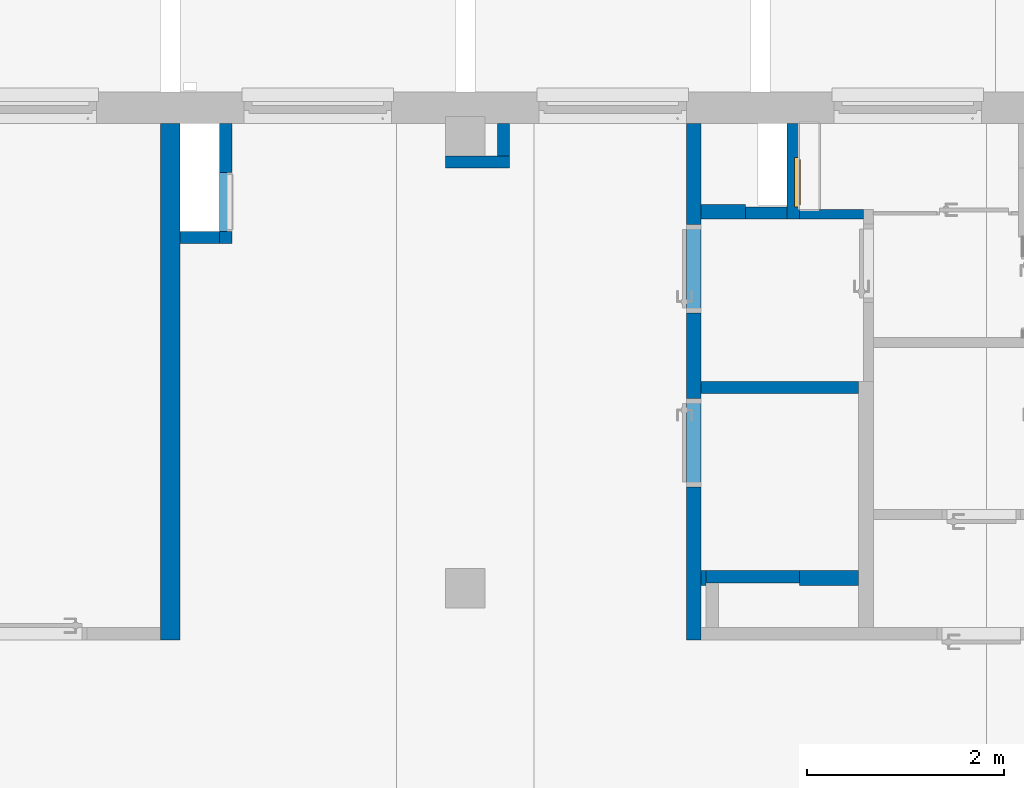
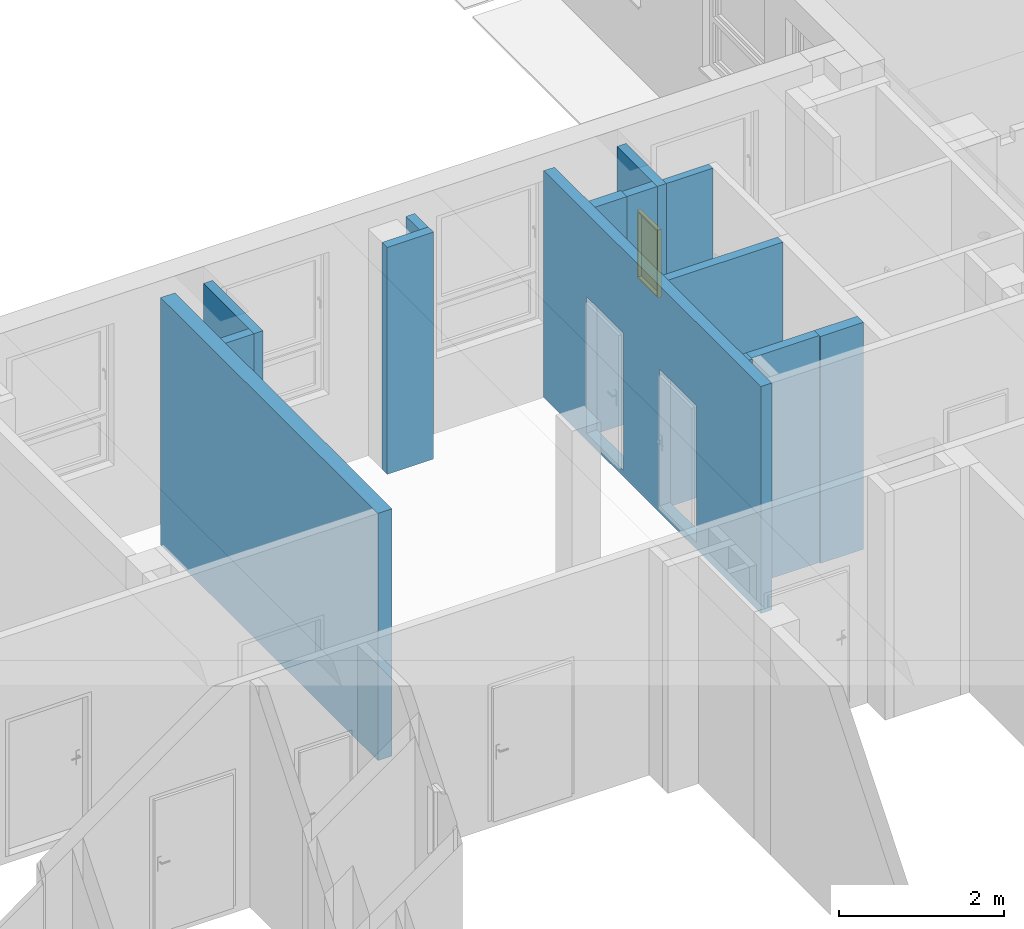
# One storey, part 25 of 140: 14 walls, 1 window, 4 openings.
"""IFC4 building model written with IfcOpenShell, lengths in metres."""

from ifc_helpers import new_model, entity, si_unit, converted_unit, derived_unit, frame, frame_2d, origin, origin_with_axes, place, context, subcontext, project, spatial, polyline, rectangle, outline, extrude, faceted_brep, source, transform, mapped, material, layer, layer_set, layer_usage, element, fill, save


model = new_model("IFC4")

# Units and contexts
model_context = context("Model", 3, precision=1e-05, world=origin())
body_context = subcontext(model_context, "Body", "Model", "MODEL_VIEW")
ifc_project = project(units=[si_unit("LENGTHUNIT", "METRE"), si_unit("AREAUNIT", "SQUARE_METRE"), si_unit("VOLUMEUNIT", "CUBIC_METRE"), si_unit("MASSUNIT", "GRAM", prefix="KILO"), converted_unit("PLANEANGLEUNIT", "DEGREE", entity("IfcPlaneAngleMeasure", 0.0174532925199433), si_unit("PLANEANGLEUNIT", "RADIAN"), dimensions=[0, 0, 0, 0, 0, 0, 0]), derived_unit("THERMALTRANSMITTANCEUNIT", [(si_unit("POWERUNIT", "WATT"), 1), (si_unit("THERMODYNAMICTEMPERATUREUNIT", "KELVIN"), -1), (si_unit("LENGTHUNIT", "METRE"), -2)]), derived_unit("VOLUMETRICFLOWRATEUNIT", [(si_unit("LENGTHUNIT", "METRE"), 3), (converted_unit("TIMEUNIT", "hour", entity("IfcTimeMeasure", 3600.0), si_unit("TIMEUNIT", "SECOND"), dimensions=[0, 0, 1, 0, 0, 0, 0]), -1), (si_unit("LENGTHUNIT", "METRE"), -1)])], contexts=[model_context])

# Site, building, storey
site_placement = place(None, origin())
site = spatial("IfcSite", under=ifc_project, at=site_placement, Name="3. ASŘ", CompositionType="ELEMENT")
building_placement = place(site_placement, origin())
building = spatial("IfcBuilding", under=site, at=building_placement, Name="Pavilon C", CompositionType="ELEMENT")
storey_placement = place(building_placement, origin())
storey = spatial("IfcBuildingStorey", under=building, at=storey_placement, Name="Půdorys 1.NP", CompositionType="ELEMENT", Elevation=0.0)

# Wall
ifc_material_1 = material(Name="ZELEZOBETONOVÁ KCE")
ifc_layer_1 = layer(ifc_material_1, 0.199999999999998)
ifc_layer_set_1 = layer_set([ifc_layer_1])
ifc_layer_usage_1 = layer_usage(ifc_layer_set_1, "AXIS2", "POSITIVE", 0.0)
wall_1_placement = place(storey_placement, frame((15.1, 9.675, -0.4), z_axis=(0.0, 0.0, 1.0), x_axis=(3.46144510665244e-16, 1.0, 0.0)))
element("IfcWall", 1, at=wall_1_placement, inside=storey, material=ifc_layer_usage_1, Name="ZELEZOBETONOVÁ KCE", context=body_context, shape_type="SweptSolid", body=[
    extrude(rectangle(XDim=5.255, YDim=0.199999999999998, at=frame_2d((2.6275, 0.0999999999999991), x_axis=(1.0, 0.0))), origin_with_axes(), (0.0, 0.0, 1.0), 3.65),
])

# Wall, opening
ifc_material_2 = material(Name="ZDIVO Z CDm")
ifc_layer_2 = layer(ifc_material_2, 0.125)
ifc_layer_set_2 = layer_set([ifc_layer_2])
ifc_layer_usage_2 = layer_usage(ifc_layer_set_2, "AXIS2", "POSITIVE", 0.0)
wall_2_placement = place(storey_placement, frame((15.5, 14.93, -0.1), z_axis=(0.0, 0.0, 1.0), x_axis=(0.0, -1.0, 0.0)))
wall_2 = element("IfcWall", 2, at=wall_2_placement, inside=storey, material=ifc_layer_usage_2, Name="ZDIVO Z CDm", context=body_context, shape_type="SweptSolid", body=[
    extrude(rectangle(XDim=1.225, YDim=0.125, at=frame_2d((0.6125, 0.0625), x_axis=(1.0, 0.0))), origin_with_axes(), (0.0, 0.0, 1.0), 3.35),
])
opening_1_placement = place(wall_2_placement, frame((1.1, 0.125, 1.1), z_axis=(0.0, -1.0, 0.0), x_axis=(0.0, 0.0, 1.0)))
element("IfcOpeningElement", 3, at=opening_1_placement, cuts=wall_2, Name="Okenní otvor", ObjectType="Opening", context=body_context, shape_type="SweptSolid", body=[
    extrude(outline(polyline([(0.0, 0.6), (1.2, 0.6), (1.2, 0.0), (0.0, 0.0), (0.0, 0.6)])), origin_with_axes(), (0.0, 0.0, 1.0), 0.125),
])

# Wall
ifc_material_3 = material(Name="ZDIVO Z CDm")
ifc_layer_3 = layer(ifc_material_3, 0.125)
ifc_layer_set_3 = layer_set([ifc_layer_3])
ifc_layer_usage_3 = layer_usage(ifc_layer_set_3, "AXIS2", "POSITIVE", 0.0)
wall_3_placement = place(storey_placement, frame((15.5, 13.83, -0.1), z_axis=(0.0, 0.0, 1.0), x_axis=(-1.0, 0.0, 0.0)))
element("IfcWall", 4, at=wall_3_placement, inside=storey, material=ifc_layer_usage_3, Name="ZDIVO Z CDm", context=body_context, shape_type="SweptSolid", body=[
    extrude(rectangle(XDim=0.4, YDim=0.125, at=frame_2d((0.2, 0.0625), x_axis=(1.0, 0.0))), origin_with_axes(), (0.0, 0.0, 1.0), 3.35),
])

# Wall, opening, window
ifc_material_4 = material(Name="ZDIVO Z CDm")
ifc_layer_4 = layer(ifc_material_4, 0.125)
ifc_layer_set_4 = layer_set([ifc_layer_4])
ifc_layer_usage_4 = layer_usage(ifc_layer_set_4, "AXIS2", "POSITIVE", 0.0)
wall_4_placement = place(storey_placement, frame((21.275, 14.93, -0.1), z_axis=(0.0, 0.0, 1.0), x_axis=(0.0, -1.0, 0.0)))
wall_4 = element("IfcWall", 5, at=wall_4_placement, inside=storey, material=ifc_layer_usage_4, Name="ZDIVO Z CDm", context=body_context, shape_type="SweptSolid", body=[
    extrude(rectangle(XDim=0.975000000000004, YDim=0.125, at=frame_2d((0.487500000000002, 0.0625), x_axis=(1.0, 0.0))), origin_with_axes(), (0.0, 0.0, 1.0), 3.35),
])
opening_2_placement = place(wall_4_placement, frame((0.850000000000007, 0.125, 1.6), z_axis=(0.0, -1.0, 0.0), x_axis=(0.0, 0.0, 1.0)))
opening_2 = element("IfcOpeningElement", 6, at=opening_2_placement, cuts=wall_4, Name="Okenní otvor", ObjectType="Opening", context=body_context, shape_type="SweptSolid", body=[
    extrude(outline(polyline([(0.0, 0.5), (1.0, 0.5), (1.0, 0.0), (0.0, 0.0), (0.0, 0.5)])), origin_with_axes(), (0.0, 0.0, 1.0), 0.125),
])
shared_shape = source(origin_with_axes(), body_context, "Body", "Brep", [
    faceted_brep([(0.0, 0.0600000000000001, 1.0), (0.0, 0.06, 4.91096680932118e-19), (0.02, 0.06, 4.91096680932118e-19), (0.02, 0.0600000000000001, 1.0), (0.0, 0.01, 6.61433067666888e-18), (0.0, 0.0100000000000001, 1.0), (0.02, 0.0100000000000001, 1.0), (0.02, 0.01, 6.61433067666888e-18)], [[[0, 1, 2, 3]], [[4, 5, 6, 7]], [[1, 0, 5, 4]], [[2, 1, 4, 7]], [[3, 2, 7, 6]], [[0, 3, 6, 5]]], orient=[[False], [False], [False], [False], [False], [False]]),
    faceted_brep([(0.48, 0.0600000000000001, 1.0), (0.48, 0.06, 4.91096680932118e-19), (0.5, 0.06, 4.91096680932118e-19), (0.5, 0.0600000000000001, 1.0), (0.48, 0.01, 6.61433067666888e-18), (0.48, 0.0100000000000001, 1.0), (0.5, 0.0100000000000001, 1.0), (0.5, 0.01, 6.61433067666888e-18)], [[[0, 1, 2, 3]], [[4, 5, 6, 7]], [[1, 0, 5, 4]], [[2, 1, 4, 7]], [[3, 2, 7, 6]], [[0, 3, 6, 5]]], orient=[[False], [False], [False], [False], [False], [False]]),
    faceted_brep([(0.02, 0.06, 0.02), (0.02, 0.06, 4.91096680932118e-19), (0.48, 0.06, 4.91096680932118e-19), (0.48, 0.06, 0.02), (0.02, 0.01, 6.61433067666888e-18), (0.02, 0.01, 0.02), (0.48, 0.01, 0.02), (0.48, 0.01, 6.61433067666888e-18)], [[[0, 1, 2, 3]], [[4, 5, 6, 7]], [[1, 0, 5, 4]], [[2, 1, 4, 7]], [[3, 2, 7, 6]], [[0, 3, 6, 5]]], orient=[[False], [False], [False], [False], [False], [False]]),
    faceted_brep([(0.02, 0.0600000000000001, 1.0), (0.02, 0.0600000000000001, 0.98), (0.48, 0.0600000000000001, 0.98), (0.48, 0.0600000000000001, 1.0), (0.02, 0.0100000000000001, 0.98), (0.02, 0.0100000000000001, 1.0), (0.48, 0.0100000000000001, 1.0), (0.48, 0.0100000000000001, 0.98)], [[[0, 1, 2, 3]], [[4, 5, 6, 7]], [[1, 0, 5, 4]], [[2, 1, 4, 7]], [[3, 2, 7, 6]], [[0, 3, 6, 5]]], orient=[[False], [False], [False], [False], [False], [False]]),
    faceted_brep([(0.02, 0.0100000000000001, 0.98), (0.02, 0.01, 0.02), (0.48, 0.01, 0.02), (0.48, 0.0100000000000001, 0.98), (0.02, 0.0, 0.02), (0.02, 1.17239551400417e-16, 0.98), (0.48, 1.17239551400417e-16, 0.98), (0.48, 0.0, 0.02)], [[[0, 1, 2, 3]], [[4, 5, 6, 7]], [[1, 0, 5, 4]], [[2, 1, 4, 7]], [[3, 2, 7, 6]], [[0, 3, 6, 5]]], orient=[[False], [False], [False], [False], [False], [False]]),
])
window_placement = place(opening_2_placement, frame((0.0, 0.499999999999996, -0.00999999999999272), z_axis=(1.0, 0.0, 0.0), x_axis=(0.0, -1.0, 1.22464679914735e-16)))
window = element("IfcWindow", 7, at=window_placement, inside=storey, Name="O01", OverallHeight=1.0, OverallWidth=0.5, PartitioningType="USERDEFINED", PredefinedType="WINDOW", context=body_context, shape_type="MappedRepresentation", body=[
    mapped(shared_shape, transform((0.0, 0.0, 0.0), x_axis=(1.0, 0.0, 0.0), y_axis=(0.0, -1.0, 0.0), z_axis=(0.0, 0.0, 1.0), scale=1.0)),
])
fill(opening_2, window)

# Walls
ifc_material_5 = material(Name="ZDIVO Z CDm")
ifc_layer_5 = layer(ifc_material_5, 0.125)
ifc_layer_set_5 = layer_set([ifc_layer_5])
ifc_layer_usage_5 = layer_usage(ifc_layer_set_5, "AXIS2", "POSITIVE", 0.0)
wall_5_placement = place(storey_placement, frame((21.275, 14.08, -0.1), z_axis=(0.0, 0.0, 1.0), x_axis=(-1.0, 0.0, 0.0)))
element("IfcWall", 8, at=wall_5_placement, inside=storey, material=ifc_layer_usage_5, Name="ZDIVO Z CDm", context=body_context, shape_type="SweptSolid", body=[
    extrude(rectangle(XDim=0.425, YDim=0.125, at=frame_2d((0.2125, 0.0625), x_axis=(1.0, 0.0))), origin_with_axes(), (0.0, 0.0, 1.0), 3.35),
])
ifc_material_6 = material(Name="YTONG 150")
ifc_layer_6 = layer(ifc_material_6, 0.15)
ifc_layer_set_6 = layer_set([ifc_layer_6])
ifc_layer_usage_6 = layer_usage(ifc_layer_set_6, "AXIS2", "POSITIVE", 0.0)
wall_6_placement = place(storey_placement, frame((20.4, 13.955, -0.1)))
element("IfcWall", 9, at=wall_6_placement, inside=storey, material=ifc_layer_usage_6, Name="YTONG 150", context=body_context, shape_type="SweptSolid", body=[
    extrude(rectangle(XDim=0.449999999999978, YDim=0.15, at=frame_2d((0.224999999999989, 0.075), x_axis=(1.0, 0.0))), origin_with_axes(), (0.0, 0.0, 1.0), 3.35),
])
ifc_material_7 = material(Name="YTONG 125")
ifc_layer_7 = layer(ifc_material_7, 0.125)
ifc_layer_set_7 = layer_set([ifc_layer_7])
ifc_layer_usage_7 = layer_usage(ifc_layer_set_7, "AXIS2", "POSITIVE", 0.0)
wall_7_placement = place(storey_placement, frame((22.0, 12.305, -0.1), z_axis=(0.0, 0.0, 1.0), x_axis=(-1.0, 0.0, 0.0)))
element("IfcWall", 10, at=wall_7_placement, inside=storey, material=ifc_layer_usage_7, Name="YTONG 125", context=body_context, shape_type="SweptSolid", body=[
    extrude(rectangle(XDim=1.6, YDim=0.125, at=frame_2d((0.8, 0.0625), x_axis=(1.0, 0.0))), origin_with_axes(), (0.0, 0.0, 1.0), 3.35),
])
ifc_material_8 = material(Name="YTONG 100")
ifc_layer_8 = layer(ifc_material_8, 0.1)
ifc_layer_set_8 = layer_set([ifc_layer_8])
ifc_layer_usage_8 = layer_usage(ifc_layer_set_8, "AXIS2", "POSITIVE", 0.0)
wall_8_placement = place(storey_placement, frame((21.4, 13.955, -0.1)))
element("IfcWall", 11, at=wall_8_placement, inside=storey, material=ifc_layer_usage_8, Name="YTONG 100", context=body_context, shape_type="SweptSolid", body=[
    extrude(rectangle(XDim=0.650000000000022, YDim=0.1, at=frame_2d((0.325000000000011, 0.05), x_axis=(1.0, 0.0))), origin_with_axes(), (0.0, 0.0, 1.0), 3.35),
])

# Wall, openings
ifc_material_9 = material(Name="YTONG 150")
ifc_layer_9 = layer(ifc_material_9, 0.15)
ifc_layer_set_9 = layer_set([ifc_layer_9])
ifc_layer_usage_9 = layer_usage(ifc_layer_set_9, "AXIS2", "POSITIVE", 0.0)
wall_9_placement = place(storey_placement, frame((20.25, 14.93, -0.1), z_axis=(0.0, 0.0, 1.0), x_axis=(0.0, -1.0, 0.0)))
wall_9 = element("IfcWall", 12, at=wall_9_placement, inside=storey, material=ifc_layer_usage_9, Name="YTONG 150", context=body_context, shape_type="SweptSolid", body=[
    extrude(rectangle(XDim=5.255, YDim=0.15, at=frame_2d((2.6275, 0.075), x_axis=(1.0, 0.0))), origin_with_axes(), (0.0, 0.0, 1.0), 3.35),
])
opening_3_placement = place(wall_9_placement, frame((1.02999999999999, 0.0, 0.1), z_axis=(0.0, 1.0, 0.0), x_axis=(0.0, 0.0, 1.0)))
element("IfcOpeningElement", 13, at=opening_3_placement, cuts=wall_9, Name="Dveřní otvor", ObjectType="Opening", context=body_context, shape_type="SweptSolid", body=[
    extrude(outline(polyline([(0.0, 0.9), (2.02, 0.9), (2.02, 0.0), (0.0, 0.0), (0.0, 0.9)])), origin_with_axes(), (0.0, 0.0, 1.0), 0.15),
])
opening_4_placement = place(wall_9_placement, frame((2.8, 0.0, 0.1), z_axis=(0.0, 1.0, 0.0), x_axis=(0.0, 0.0, 1.0)))
element("IfcOpeningElement", 14, at=opening_4_placement, cuts=wall_9, Name="Dveřní otvor", ObjectType="Opening", context=body_context, shape_type="SweptSolid", body=[
    extrude(outline(polyline([(0.0, 0.9), (2.02, 0.9), (2.02, 0.0), (0.0, 0.0), (0.0, 0.9)])), origin_with_axes(), (0.0, 0.0, 1.0), 0.15),
])

# Walls
ifc_material_10 = material(Name="ZDIVO Z CDm")
ifc_layer_10 = layer(ifc_material_10, 0.125)
ifc_layer_set_10 = layer_set([ifc_layer_10])
ifc_layer_usage_10 = layer_usage(ifc_layer_set_10, "AXIS2", "POSITIVE", 0.0)
wall_10_placement = place(storey_placement, frame((20.45, 10.255, -0.1)))
element("IfcWall", 15, at=wall_10_placement, inside=storey, material=ifc_layer_usage_10, Name="ZDIVO Z CDm", context=body_context, shape_type="SweptSolid", body=[
    extrude(rectangle(XDim=0.95, YDim=0.125, at=frame_2d((0.475, 0.0625), x_axis=(1.0, 0.0))), origin_with_axes(), (0.0, 0.0, 1.0), 3.35),
])
ifc_material_11 = material(Name="YTONG 150")
ifc_layer_11 = layer(ifc_material_11, 0.15)
ifc_layer_set_11 = layer_set([ifc_layer_11])
ifc_layer_usage_11 = layer_usage(ifc_layer_set_11, "AXIS2", "POSITIVE", 0.0)
wall_11_placement = place(storey_placement, frame((20.45, 10.38, -0.1), z_axis=(0.0, 0.0, 1.0), x_axis=(-1.0, 0.0, 0.0)))
element("IfcWall", 16, at=wall_11_placement, inside=storey, material=ifc_layer_usage_11, Name="YTONG 150", context=body_context, shape_type="SweptSolid", body=[
    extrude(rectangle(XDim=0.0499999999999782, YDim=0.15, at=frame_2d((0.0249999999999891, 0.075), x_axis=(1.0, 0.0))), origin_with_axes(), (0.0, 0.0, 1.0), 3.35),
])
ifc_material_12 = material(Name="YTONG 150")
ifc_layer_12 = layer(ifc_material_12, 0.15)
ifc_layer_set_12 = layer_set([ifc_layer_12])
ifc_layer_usage_12 = layer_usage(ifc_layer_set_12, "AXIS2", "POSITIVE", 0.0)
wall_12_placement = place(storey_placement, frame((22.0, 10.38, -0.1), z_axis=(0.0, 0.0, 1.0), x_axis=(-1.0, 0.0, 0.0)))
element("IfcWall", 17, at=wall_12_placement, inside=storey, material=ifc_layer_usage_12, Name="YTONG 150", context=body_context, shape_type="SweptSolid", body=[
    extrude(rectangle(XDim=0.600000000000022, YDim=0.15, at=frame_2d((0.300000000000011, 0.075), x_axis=(1.0, 0.0))), origin_with_axes(), (0.0, 0.0, 1.0), 3.35),
])
ifc_material_13 = material(Name="ZDIVO Z CDm")
ifc_layer_13 = layer(ifc_material_13, 0.125)
ifc_layer_set_13 = layer_set([ifc_layer_13])
ifc_layer_usage_13 = layer_usage(ifc_layer_set_13, "AXIS2", "POSITIVE", 0.0)
wall_13_placement = place(storey_placement, frame((18.45, 14.6, -0.1), z_axis=(0.0, 0.0, 1.0), x_axis=(-1.0, 0.0, 0.0)))
element("IfcWall", 18, at=wall_13_placement, inside=storey, material=ifc_layer_usage_13, Name="ZDIVO Z CDm", context=body_context, shape_type="SweptSolid", body=[
    extrude(rectangle(XDim=0.65, YDim=0.125, at=frame_2d((0.325, 0.0625), x_axis=(1.0, 0.0))), origin_with_axes(), (0.0, 0.0, 1.0), 3.35),
])
ifc_material_14 = material(Name="ZDIVO Z CDm")
ifc_layer_14 = layer(ifc_material_14, 0.125)
ifc_layer_set_14 = layer_set([ifc_layer_14])
ifc_layer_usage_14 = layer_usage(ifc_layer_set_14, "AXIS2", "POSITIVE", 0.0)
wall_14_placement = place(storey_placement, frame((18.45, 14.6, -0.1), z_axis=(0.0, 0.0, 1.0), x_axis=(0.0, 1.0, 0.0)))
element("IfcWall", 19, at=wall_14_placement, inside=storey, material=ifc_layer_usage_14, Name="ZDIVO Z CDm", context=body_context, shape_type="SweptSolid", body=[
    extrude(rectangle(XDim=0.330000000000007, YDim=0.125, at=frame_2d((0.165000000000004, 0.0625), x_axis=(1.0, 0.0))), origin_with_axes(), (0.0, 0.0, 1.0), 3.35),
])

save(model, "model.ifc")
